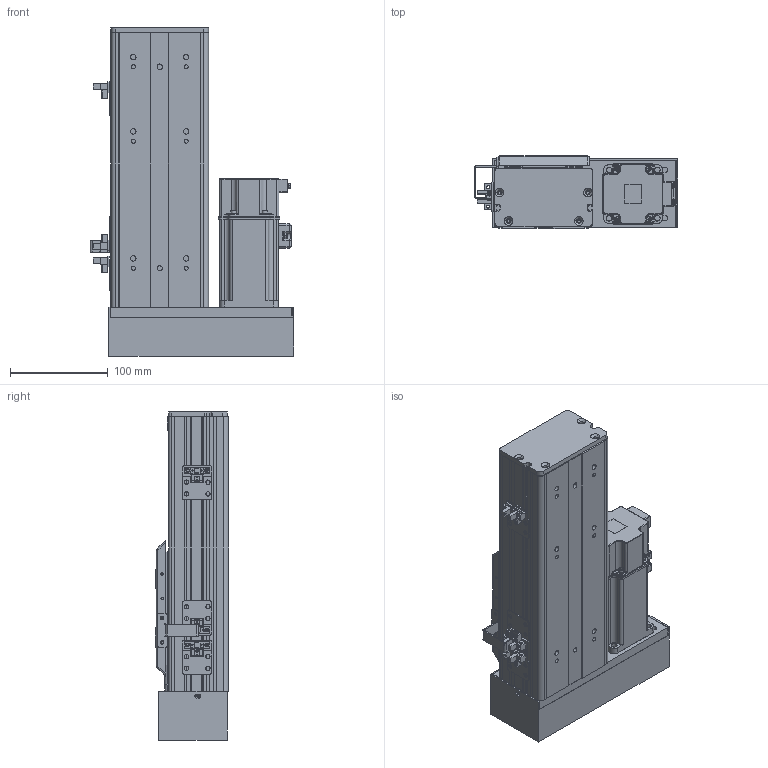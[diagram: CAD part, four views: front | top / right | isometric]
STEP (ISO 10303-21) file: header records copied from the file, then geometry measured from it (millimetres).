
FILE_DESCRIPTION (( 'STEP AP203' ), '1' );
FILE_NAME ('BOSW100-100-1610-1P-LM-M400W-O-S3（方程式2016）.step', '2020-10-10T06:51:00', ( '' ), ( '' ), 'SwSTEP 2.0', 'SolidWorks 2016', '' );
FILE_SCHEMA (( 'CONFIG_CONTROL_DESIGN' ));
Length unit declared in the file: millimetre
Products named in the file (14): BOSW-100-1P-DM-宽轨-钢带-100客户图纸; S400W(SMA-L040); 新结构AIMSW-100-1P-宽&高轨共用-滑动座上组件; BOSW-100-1P-DM-宽轨-侧板-100客户图纸; BOSW-100-1P-DM-100諦誧芞; BOSW&TW-100-詩湍揤沭(陔賦凳); AIMS(W)-100-LM&RM-肮祭謫欶; BOSW-100-綴裔啣; 俋境嫖覜嘐隅啣; BOSW&TW-100-俋离覜茼え; 放大器内置U型微型光电传感器PM-L65; boS-100-LM&RM-三菱M400W马达板-宽轨; BOSW&TW-100-1P-賑雄釱欶; BOSW100-100-1610-1P-LM-M400W-O-S3（方程式2016）
Assembly tree (19 placements, depth 2):
  BOSW100-100-1610-1P-LM-M400W-O-S3（方程式2016）
    BOSW-100-1P-DM-100諦誧芞
    BOSW-100-綴裔啣
    新结构AIMSW-100-1P-宽&高轨共用-滑动座上组件
    S400W(SMA-L040)
    BOSW&TW-100-詩湍揤沭(陔賦凳)  x2
    BOSW&TW-100-1P-賑雄釱欶
    BOSW&TW-100-俋离覜茼え
    俋境嫖覜嘐隅啣  x3
    放大器内置U型微型光电传感器PM-L65  x3
    BOSW-100-1P-DM-宽轨-侧板-100客户图纸  x2
    BOSW-100-1P-DM-宽轨-钢带-100客户图纸
    AIMS(W)-100-LM&RM-肮祭謫欶
    boS-100-LM&RM-三菱M400W马达板-宽轨
Bounding box: 207.9 x 75 x 336 mm (x, y, z)
Volume: 975796.2 mm3; surface area: 501815.3 mm2
Topology: 19 solids, 20 shells, 2479 faces, 6525 edges, 4159 vertices
Faces by surface type: plane 1235, cylinder 758, bspline 271, cone 167, torus 36, sphere 12
Entity records: 67528 total; most frequent: CARTESIAN_POINT 20398, ORIENTED_EDGE 9590, DIRECTION 9255, EDGE_CURVE 4795, AXIS2_PLACEMENT_3D 3259, VERTEX_POINT 3061, VECTOR 2737, LINE 2737
